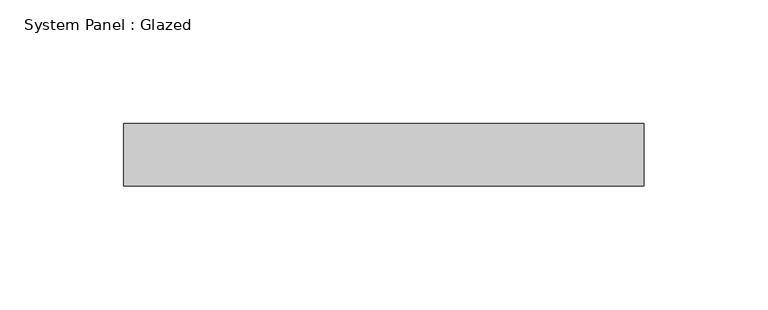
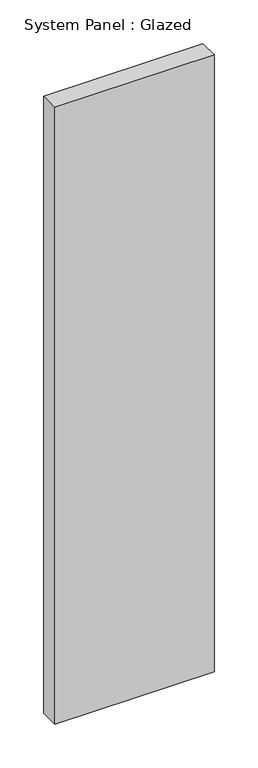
"""IFC4 building model written with IfcOpenShell, lengths in millimetres: plate geometry, System Panel : Glazed."""

from ifc_helpers import new_model, si_unit, origin, origin_with_axes, place, context, project, spatial, polyline, outline, extrude, source, transform, mapped, element, save


def system_panel_glazed_048d6be5(model_context):
    return source(origin(), model_context, "Body", "SweptSolid", [
        extrude(outline(polyline([(105.4575643, 19.05), (-105.4575643, 19.05), (-105.4575643, 44.45), (105.4575643, 44.45), (105.4575643, 19.05)])), origin_with_axes(), (0.0, 0.0, 1.0), 863.6),
    ])


if __name__ == "__main__":
    model = new_model("IFC4")
    model_context = context("Model", 3, world=origin())
    ifc_project = project(units=[si_unit("LENGTHUNIT", "METRE", prefix="MILLI")], contexts=[model_context])
    site = spatial("IfcSite", under=ifc_project)
    building = spatial("IfcBuilding", under=site)
    placement = place(None, origin())
    system_panel_glazed_shape = system_panel_glazed_048d6be5(model_context)
    element("IfcPlate", 1, ObjectType="System Panel : Glazed", at=placement, inside=building, context=model_context, shape_type="MappedRepresentation", body=[
        mapped(system_panel_glazed_shape, transform((0.0, 0.0, 0.0), x_axis=(1.0, 0.0, 0.0), y_axis=(0.0, 1.0, 0.0), z_axis=(0.0, 0.0, 1.0))),
    ])
    save(model, "model.ifc")
